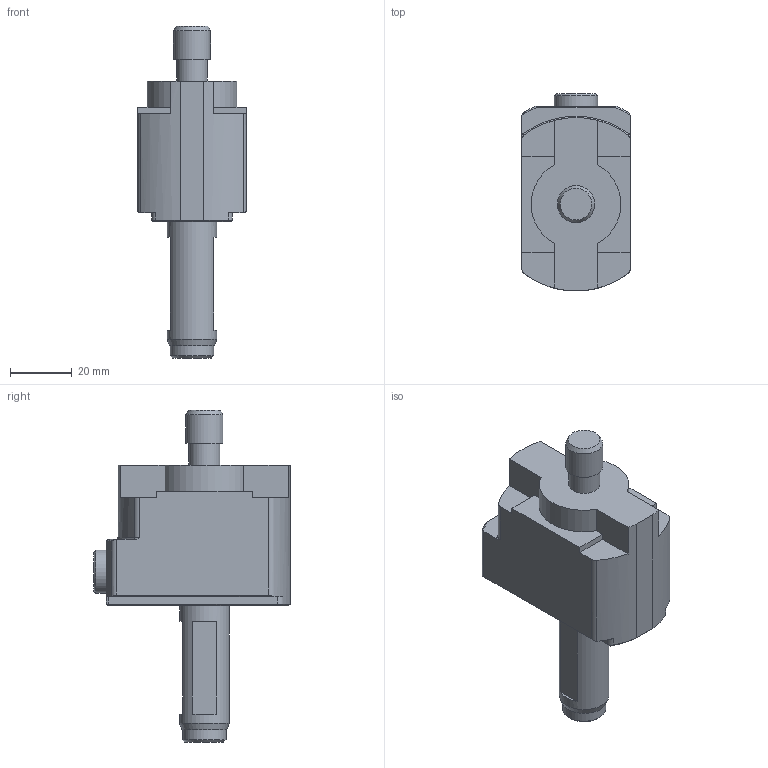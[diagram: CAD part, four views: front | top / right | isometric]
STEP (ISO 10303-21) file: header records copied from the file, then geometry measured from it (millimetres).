
FILE_DESCRIPTION (( 'STEP AP214' ), '1' );
FILE_NAME ('97-000-160 - light.STEP', '2025-06-08T08:03:55', ( 'pc' ), ( '' ), 'SwSTEP 2.0', 'SolidWorks 2024', '' );
FILE_SCHEMA (( 'AUTOMOTIVE_DESIGN' ));
Length unit declared in the file: millimetre
Products named in the file (1): 97-000-160 - light
Bounding box: 35 x 63.5 x 107.3 mm (x, y, z)
Volume: 88569.3 mm3; surface area: 14442.5 mm2
Topology: 1 solids, 1 shells, 81 faces, 203 edges, 131 vertices
Faces by surface type: plane 46, cylinder 22, cone 10, torus 3
Full cylindrical faces by diameter (mm): 10 x1, 12 x1, 14 x2, 16 x1
Entity records: 2456 total; most frequent: CARTESIAN_POINT 552, DIRECTION 393, ORIENTED_EDGE 380, EDGE_CURVE 190, AXIS2_PLACEMENT_3D 147, VERTEX_POINT 128, VECTOR 99, LINE 99
